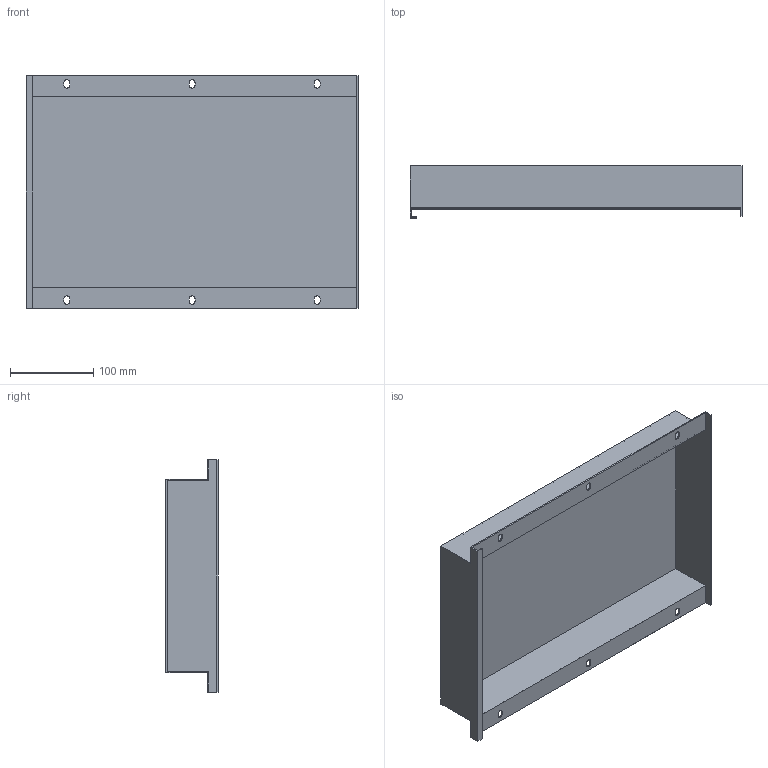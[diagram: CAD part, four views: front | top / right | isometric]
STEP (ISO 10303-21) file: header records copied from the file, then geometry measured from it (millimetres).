
FILE_DESCRIPTION (( 'STEP AP214' ), '1' );
FILE_NAME ('FO-00-PVSU-040-040 Ïëàñòðîí âíóòðåííèé óãëóáëåííûé 400õ400õ50.STEP', '2025-08-26T14:22:52', ( '' ), ( '' ), 'SwSTEP 2.0', 'SolidWorks 2023', '' );
FILE_SCHEMA (( 'AUTOMOTIVE_DESIGN' ));
Length unit declared in the file: millimetre
Products named in the file (1): FO-00-PVSU-040-040 Пластрон внутренний углубленный 400х400х50
Bounding box: 398 x 62.5 x 279 mm (x, y, z)
Volume: 253109.4 mm3; surface area: 363788.6 mm2
Topology: 1 solids, 1 shells, 52 faces, 150 edges, 100 vertices
Faces by surface type: plane 34, cylinder 18
Entity records: 1757 total; most frequent: CARTESIAN_POINT 303, ORIENTED_EDGE 300, DIRECTION 292, EDGE_CURVE 150, VECTOR 114, LINE 114, VERTEX_POINT 100, AXIS2_PLACEMENT_3D 89
